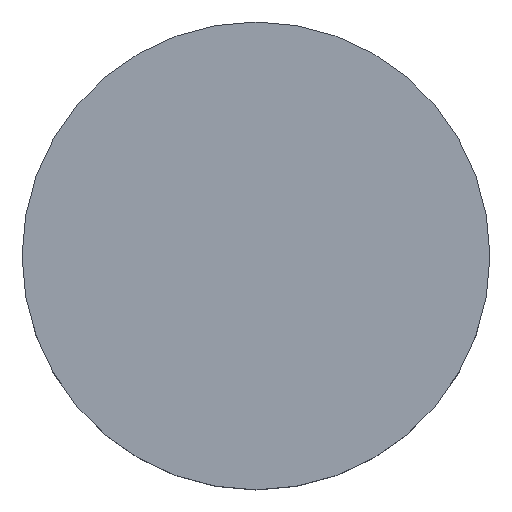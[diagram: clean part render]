
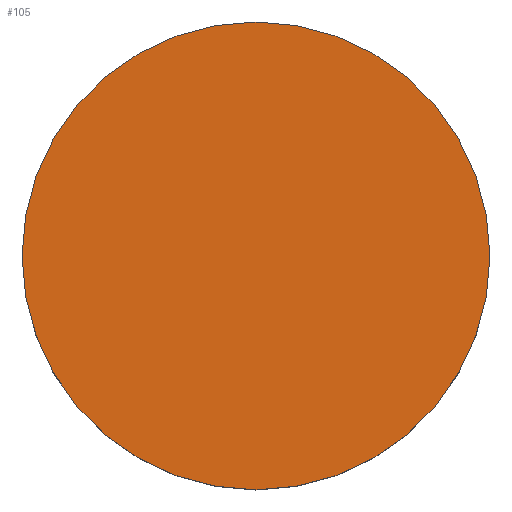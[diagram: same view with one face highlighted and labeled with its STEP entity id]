
A CAD part, top view. The second image highlights one B-rep face of the part: STEP entity #105.
In plain terms, the highlighted planar face has unit normal (0, 0, 1).
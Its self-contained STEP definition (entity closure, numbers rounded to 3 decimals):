
#21 = EDGE_CURVE('',#22,#22,#24,.T.);
#22 = VERTEX_POINT('',#23);
#23 = CARTESIAN_POINT('',(5.35,0.,20.35));
#24 = SURFACE_CURVE('',#25,(#30,#42),.PCURVE_S1.);
#25 = CIRCLE('',#26,1.1);
#26 = AXIS2_PLACEMENT_3D('',#27,#28,#29);
#27 = CARTESIAN_POINT('',(4.25,0.,20.35));
#28 = DIRECTION('',(0.,0.,1.));
#29 = DIRECTION('',(1.,0.,-0.));
#30 = PCURVE('',#31,#36);
#31 = CYLINDRICAL_SURFACE('',#32,1.1);
#32 = AXIS2_PLACEMENT_3D('',#33,#34,#35);
#33 = CARTESIAN_POINT('',(4.25,0.,19.85));
#34 = DIRECTION('',(0.,0.,1.));
#35 = DIRECTION('',(1.,0.,-0.));
#36 = DEFINITIONAL_REPRESENTATION('',(#37),#41);
#37 = LINE('',#38,#39);
#38 = CARTESIAN_POINT('',(0.,0.5));
#39 = VECTOR('',#40,1.);
#40 = DIRECTION('',(1.,0.));
#41 = ( GEOMETRIC_REPRESENTATION_CONTEXT(2) 
PARAMETRIC_REPRESENTATION_CONTEXT() REPRESENTATION_CONTEXT('2D SPACE',''
  ) );
#42 = PCURVE('',#43,#48);
#43 = PLANE('',#44);
#44 = AXIS2_PLACEMENT_3D('',#45,#46,#47);
#45 = CARTESIAN_POINT('',(4.25,0.,20.35));
#46 = DIRECTION('',(0.,0.,1.));
#47 = DIRECTION('',(1.,0.,-0.));
#48 = DEFINITIONAL_REPRESENTATION('',(#49),#53);
#49 = CIRCLE('',#50,1.1);
#50 = AXIS2_PLACEMENT_2D('',#51,#52);
#51 = CARTESIAN_POINT('',(0.,0.));
#52 = DIRECTION('',(1.,0.));
#53 = ( GEOMETRIC_REPRESENTATION_CONTEXT(2) 
PARAMETRIC_REPRESENTATION_CONTEXT() REPRESENTATION_CONTEXT('2D SPACE',''
  ) );
#105 = ADVANCED_FACE('',(#106),#43,.T.);
#106 = FACE_BOUND('',#107,.T.);
#107 = EDGE_LOOP('',(#108));
#108 = ORIENTED_EDGE('',*,*,#21,.T.);
